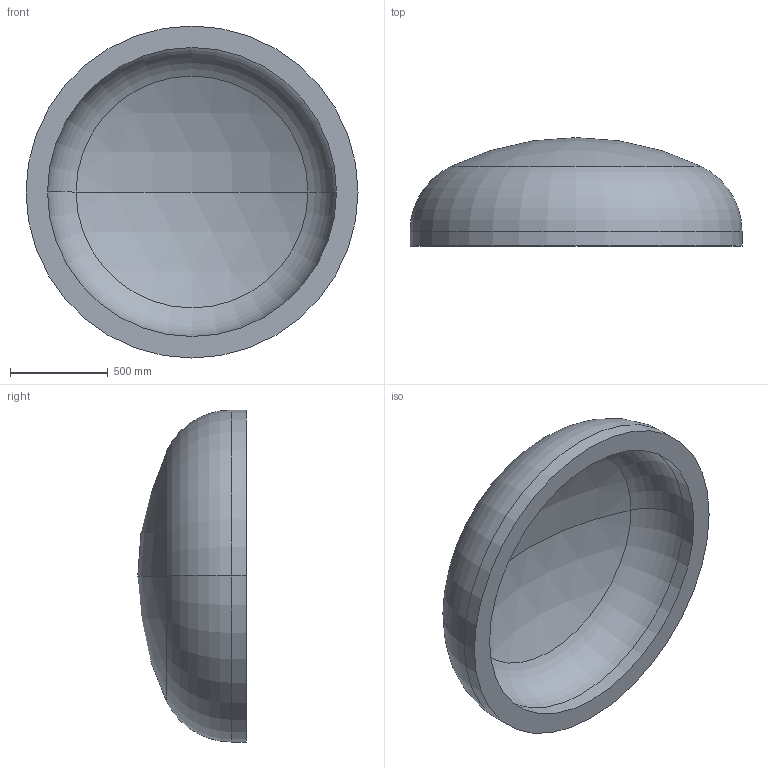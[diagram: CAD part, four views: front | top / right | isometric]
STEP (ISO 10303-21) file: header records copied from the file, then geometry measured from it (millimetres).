
FILE_DESCRIPTION (( 'STEP AP203' ), '1' );
FILE_NAME ('DIN 28013 Korbbogenform_-_Boden DIN 28013 - 1700 x 75 - I - s=110.step', '2016-07-01T12:10:26', ( '' ), ( '' ), 'SwSTEP 2.0', 'SolidWorks 2013', '' );
FILE_SCHEMA (( 'CONFIG_CONTROL_DESIGN' ));
Length unit declared in the file: millimetre
Products named in the file (1): DIN 28013 Korbbogenform_-_Boden DIN 28013 - 1700 x 75 - I - s=110
Bounding box: 1700 x 555.25 x 1700 mm (x, y, z)
Volume: 359277016.8 mm3; surface area: 7107114.5 mm2
Topology: 1 solids, 1 shells, 13 faces, 24 edges, 14 vertices
Faces by surface type: torus 4, cylinder 4, sphere 4, plane 1
Entity records: 407 total; most frequent: DIRECTION 72, CARTESIAN_POINT 52, ORIENTED_EDGE 48, AXIS2_PLACEMENT_3D 34, EDGE_CURVE 24, CIRCLE 20, VERTEX_POINT 14, EDGE_LOOP 14
